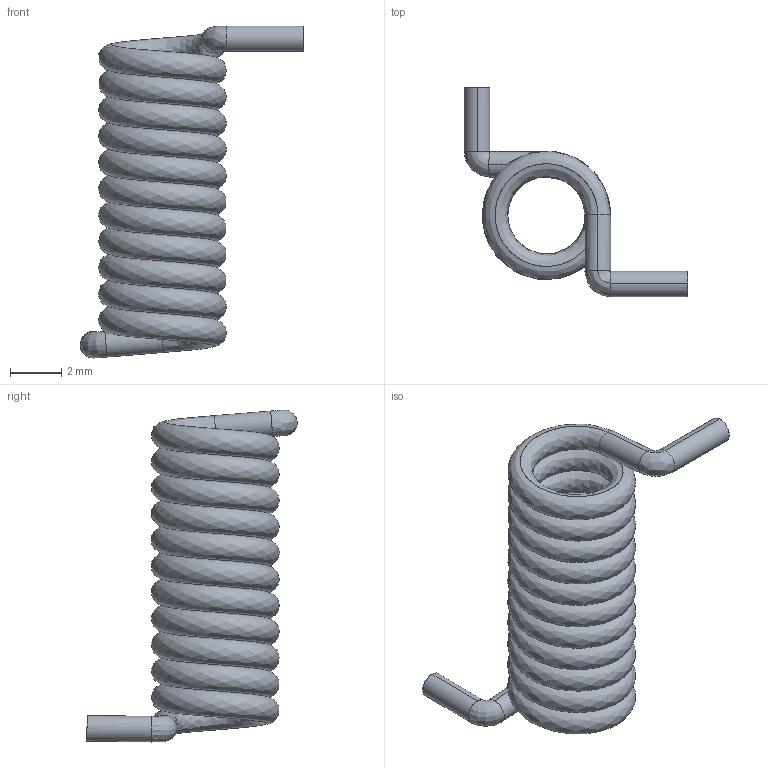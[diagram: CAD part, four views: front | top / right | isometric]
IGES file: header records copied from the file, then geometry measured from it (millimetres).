
Start section: SolidWorks IGES file using analytic representation for surfaces
Global section: file name: Z:\Mes documents\ATAO iges\Gamme CC\CC 473\473.230.10.IGS; native system: SolidWorks 2008; preprocessor: SolidWorks 2008; author: cbrechard; date: 110629.090013; units: millimetre
Bounding box: 8.7 x 8.19 x 12.93 mm (x, y, z)
Surface area: 483.2 mm2 (no closed solid volume)
Topology: 0 solids, 0 shells, 18 faces, 108 edges, 104 vertices
Faces by surface type: bspline 12, revolution 6
